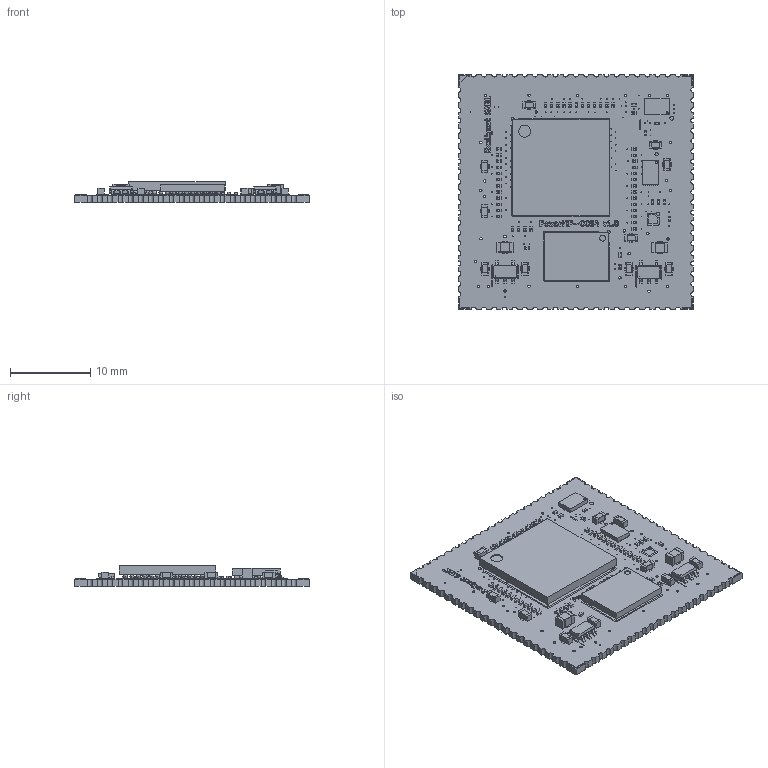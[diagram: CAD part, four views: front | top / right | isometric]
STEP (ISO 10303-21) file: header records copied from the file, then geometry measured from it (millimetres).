
FILE_DESCRIPTION (( 'STEP AP214' ), '1' );
FILE_NAME ('H037-PowerFIP-CC84-v1.00.STEP', '2025-09-12T12:38:20', ( '' ), ( '' ), 'SwSTEP 2.0', 'SolidWorks 2012', '' );
FILE_SCHEMA (( 'AUTOMOTIVE_DESIGN' ));
Length unit declared in the file: millimetre
Products named in the file (1): H037-PowerFIP-CC84-v1.00
Bounding box: 29.2 x 29.2 x 2.6 mm (x, y, z)
Surface area: 2778.5 mm2 (no closed solid volume)
Topology: 0 solids, 407 shells, 2857 faces, 8134 edges, 5656 vertices
Faces by surface type: plane 1455, cylinder 1158, bspline 244
Full cylindrical faces by diameter (mm): 0.1 x232, 0.25 x2, 0.3 x30, 0.75 x1, 1.5 x1
Entity records: 124252 total; most frequent: CARTESIAN_POINT 22874, DIRECTION 14455, ORIENTED_EDGE 13536, EDGE_CURVE 7136, VERTEX_POINT 5168, AXIS2_PLACEMENT_3D 4930, VECTOR 4595, LINE 4595
